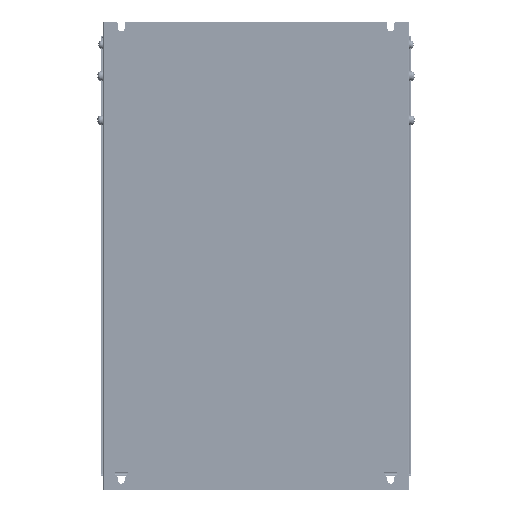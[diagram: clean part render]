
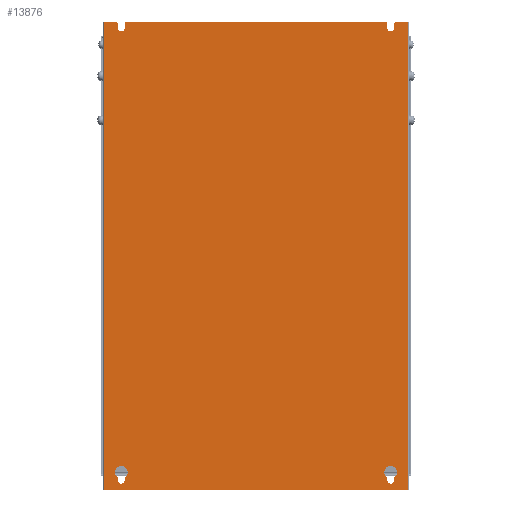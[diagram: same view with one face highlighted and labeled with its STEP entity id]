
A CAD part, front view. The second image highlights one B-rep face of the part: STEP entity #13876.
In plain terms, the highlighted planar face has unit normal (0, -1, 0) as drawn and (0, 0, 1) by its records, which use the part's own axes.
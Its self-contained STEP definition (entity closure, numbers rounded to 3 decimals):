
#1620=DIRECTION('',(0.,-1.,0.));
#1621=VECTOR('',#1620,476.);
#1622=CARTESIAN_POINT('',(-154.1,476.,0.));
#1623=LINE('',#1622,#1621);
#1628=DIRECTION('',(0.707,-0.707,0.));
#1629=VECTOR('',#1628,1.414);
#1630=CARTESIAN_POINT('',(-141.5,476.,0.));
#1631=LINE('',#1630,#1629);
#1632=CARTESIAN_POINT('',(-137.,470.,0.));
#1633=DIRECTION('',(0.,0.,1.));
#1634=DIRECTION('',(-1.,0.,0.));
#1635=AXIS2_PLACEMENT_3D('',#1632,#1633,#1634);
#1637=DIRECTION('',(0.,1.,0.));
#1638=VECTOR('',#1637,5.);
#1639=CARTESIAN_POINT('',(-133.5,470.,0.));
#1640=LINE('',#1639,#1638);
#1641=DIRECTION('',(0.707,0.707,0.));
#1642=VECTOR('',#1641,1.414);
#1643=CARTESIAN_POINT('',(-133.5,475.,0.));
#1644=LINE('',#1643,#1642);
#1645=DIRECTION('',(0.707,-0.707,0.));
#1646=VECTOR('',#1645,1.414);
#1647=CARTESIAN_POINT('',(132.5,476.,0.));
#1648=LINE('',#1647,#1646);
#1649=CARTESIAN_POINT('',(137.,470.,0.));
#1650=DIRECTION('',(0.,0.,1.));
#1651=DIRECTION('',(-1.,0.,0.));
#1652=AXIS2_PLACEMENT_3D('',#1649,#1650,#1651);
#1654=DIRECTION('',(0.,1.,0.));
#1655=VECTOR('',#1654,5.);
#1656=CARTESIAN_POINT('',(140.5,470.,0.));
#1657=LINE('',#1656,#1655);
#1658=DIRECTION('',(0.707,0.707,0.));
#1659=VECTOR('',#1658,1.414);
#1660=CARTESIAN_POINT('',(140.5,475.,0.));
#1661=LINE('',#1660,#1659);
#1662=DIRECTION('',(-1.,0.,0.));
#1663=VECTOR('',#1662,308.2);
#1664=CARTESIAN_POINT('',(154.1,0.,0.));
#1665=LINE('',#1664,#1663);
#1666=DIRECTION('',(0.,1.,0.));
#1667=VECTOR('',#1666,2.523);
#1668=CARTESIAN_POINT('',(140.5,10.,0.));
#1669=LINE('',#1668,#1667);
#1670=CARTESIAN_POINT('',(137.,18.,0.));
#1671=DIRECTION('',(0.,0.,1.));
#1672=DIRECTION('',(0.538,-0.843,0.));
#1673=AXIS2_PLACEMENT_3D('',#1670,#1671,#1672);
#1675=CARTESIAN_POINT('',(137.,18.,0.));
#1676=DIRECTION('',(0.,0.,1.));
#1677=DIRECTION('',(-0.538,0.843,0.));
#1678=AXIS2_PLACEMENT_3D('',#1675,#1676,#1677);
#1680=DIRECTION('',(0.,-1.,0.));
#1681=VECTOR('',#1680,2.523);
#1682=CARTESIAN_POINT('',(133.5,12.523,0.));
#1683=LINE('',#1682,#1681);
#1684=CARTESIAN_POINT('',(137.,10.,0.));
#1685=DIRECTION('',(0.,0.,1.));
#1686=DIRECTION('',(-1.,0.,0.));
#1687=AXIS2_PLACEMENT_3D('',#1684,#1685,#1686);
#1689=DIRECTION('',(0.,1.,0.));
#1690=VECTOR('',#1689,2.523);
#1691=CARTESIAN_POINT('',(-133.5,10.,0.));
#1692=LINE('',#1691,#1690);
#1693=CARTESIAN_POINT('',(-137.,18.,0.));
#1694=DIRECTION('',(0.,0.,1.));
#1695=DIRECTION('',(0.538,-0.843,0.));
#1696=AXIS2_PLACEMENT_3D('',#1693,#1694,#1695);
#1698=CARTESIAN_POINT('',(-137.,18.,0.));
#1699=DIRECTION('',(0.,0.,1.));
#1700=DIRECTION('',(-0.538,0.843,0.));
#1701=AXIS2_PLACEMENT_3D('',#1698,#1699,#1700);
#1703=DIRECTION('',(0.,-1.,0.));
#1704=VECTOR('',#1703,2.523);
#1705=CARTESIAN_POINT('',(-140.5,12.523,0.));
#1706=LINE('',#1705,#1704);
#1707=CARTESIAN_POINT('',(-137.,10.,0.));
#1708=DIRECTION('',(0.,0.,1.));
#1709=DIRECTION('',(-1.,0.,0.));
#1710=AXIS2_PLACEMENT_3D('',#1707,#1708,#1709);
#1716=DIRECTION('',(-1.,0.,0.));
#1717=VECTOR('',#1716,12.6);
#1718=CARTESIAN_POINT('',(-141.5,476.,0.));
#1719=LINE('',#1718,#1717);
#2073=DIRECTION('',(0.,1.,0.));
#2074=VECTOR('',#2073,476.);
#2075=CARTESIAN_POINT('',(154.1,0.,0.));
#2076=LINE('',#2075,#2074);
#2211=DIRECTION('',(-1.,0.,0.));
#2212=VECTOR('',#2211,12.6);
#2213=CARTESIAN_POINT('',(154.1,476.,0.));
#2214=LINE('',#2213,#2212);
#2235=DIRECTION('',(0.,1.,0.));
#2236=VECTOR('',#2235,5.);
#2237=CARTESIAN_POINT('',(133.5,470.,0.));
#2238=LINE('',#2237,#2236);
#2247=DIRECTION('',(-1.,0.,0.));
#2248=VECTOR('',#2247,265.);
#2249=CARTESIAN_POINT('',(132.5,476.,0.));
#2250=LINE('',#2249,#2248);
#2271=DIRECTION('',(0.,1.,0.));
#2272=VECTOR('',#2271,5.);
#2273=CARTESIAN_POINT('',(-140.5,470.,0.));
#2274=LINE('',#2273,#2272);
#11013=CARTESIAN_POINT('',(-154.1,0.,0.));
#11014=VERTEX_POINT('',#11013);
#11017=CARTESIAN_POINT('',(-154.1,476.,0.));
#11018=VERTEX_POINT('',#11017);
#11019=CARTESIAN_POINT('',(-141.5,476.,0.));
#11020=CARTESIAN_POINT('',(-140.5,475.,0.));
#11021=VERTEX_POINT('',#11019);
#11022=VERTEX_POINT('',#11020);
#11023=CARTESIAN_POINT('',(-140.5,470.,0.));
#11024=VERTEX_POINT('',#11023);
#11025=CARTESIAN_POINT('',(-133.5,470.,0.));
#11026=VERTEX_POINT('',#11025);
#11027=CARTESIAN_POINT('',(-133.5,475.,0.));
#11028=VERTEX_POINT('',#11027);
#11029=CARTESIAN_POINT('',(-132.5,476.,0.));
#11030=VERTEX_POINT('',#11029);
#11031=CARTESIAN_POINT('',(132.5,476.,0.));
#11032=VERTEX_POINT('',#11031);
#11033=CARTESIAN_POINT('',(133.5,475.,0.));
#11034=VERTEX_POINT('',#11033);
#11035=CARTESIAN_POINT('',(133.5,470.,0.));
#11036=VERTEX_POINT('',#11035);
#11037=CARTESIAN_POINT('',(140.5,470.,0.));
#11038=VERTEX_POINT('',#11037);
#11039=CARTESIAN_POINT('',(140.5,475.,0.));
#11040=VERTEX_POINT('',#11039);
#11041=CARTESIAN_POINT('',(141.5,476.,0.));
#11042=VERTEX_POINT('',#11041);
#11043=CARTESIAN_POINT('',(154.1,476.,0.));
#11044=VERTEX_POINT('',#11043);
#11045=CARTESIAN_POINT('',(154.1,0.,0.));
#11046=VERTEX_POINT('',#11045);
#11047=CARTESIAN_POINT('',(140.5,10.,0.));
#11048=CARTESIAN_POINT('',(140.5,12.523,0.));
#11049=VERTEX_POINT('',#11047);
#11050=VERTEX_POINT('',#11048);
#11051=CARTESIAN_POINT('',(133.5,23.477,0.));
#11052=VERTEX_POINT('',#11051);
#11053=CARTESIAN_POINT('',(133.5,12.523,0.));
#11054=VERTEX_POINT('',#11053);
#11055=CARTESIAN_POINT('',(133.5,10.,0.));
#11056=VERTEX_POINT('',#11055);
#11057=CARTESIAN_POINT('',(-133.5,10.,0.));
#11058=CARTESIAN_POINT('',(-133.5,12.523,0.));
#11059=VERTEX_POINT('',#11057);
#11060=VERTEX_POINT('',#11058);
#11061=CARTESIAN_POINT('',(-140.5,23.477,0.));
#11062=VERTEX_POINT('',#11061);
#11063=CARTESIAN_POINT('',(-140.5,12.523,0.));
#11064=VERTEX_POINT('',#11063);
#11065=CARTESIAN_POINT('',(-140.5,10.,0.));
#11066=VERTEX_POINT('',#11065);
#13814=CARTESIAN_POINT('',(-155.5,0.,0.));
#13815=DIRECTION('',(0.,0.,1.));
#13816=DIRECTION('',(1.,0.,0.));
#13817=AXIS2_PLACEMENT_3D('',#13814,#13815,#13816);
#13818=PLANE('',#13817);
#13820=ORIENTED_EDGE('',*,*,#13819,.T.);
#13822=ORIENTED_EDGE('',*,*,#13821,.F.);
#13824=ORIENTED_EDGE('',*,*,#13823,.T.);
#13826=ORIENTED_EDGE('',*,*,#13825,.T.);
#13828=ORIENTED_EDGE('',*,*,#13827,.T.);
#13830=ORIENTED_EDGE('',*,*,#13829,.F.);
#13832=ORIENTED_EDGE('',*,*,#13831,.T.);
#13834=ORIENTED_EDGE('',*,*,#13833,.F.);
#13836=ORIENTED_EDGE('',*,*,#13835,.T.);
#13838=ORIENTED_EDGE('',*,*,#13837,.T.);
#13840=ORIENTED_EDGE('',*,*,#13839,.T.);
#13842=ORIENTED_EDGE('',*,*,#13841,.F.);
#13844=ORIENTED_EDGE('',*,*,#13843,.F.);
#13846=ORIENTED_EDGE('',*,*,#13845,.T.);
#13847=ORIENTED_EDGE('',*,*,#13805,.F.);
#13849=ORIENTED_EDGE('',*,*,#13848,.F.);
#13850=EDGE_LOOP('',(#13820,#13822,#13824,#13826,#13828,#13830,#13832,#13834,
#13836,#13838,#13840,#13842,#13844,#13846,#13847,#13849));
#13851=FACE_OUTER_BOUND('',#13850,.F.);
#13853=ORIENTED_EDGE('',*,*,#13852,.T.);
#13855=ORIENTED_EDGE('',*,*,#13854,.T.);
#13857=ORIENTED_EDGE('',*,*,#13856,.T.);
#13859=ORIENTED_EDGE('',*,*,#13858,.T.);
#13861=ORIENTED_EDGE('',*,*,#13860,.T.);
#13862=EDGE_LOOP('',(#13853,#13855,#13857,#13859,#13861));
#13863=FACE_BOUND('',#13862,.F.);
#13865=ORIENTED_EDGE('',*,*,#13864,.T.);
#13867=ORIENTED_EDGE('',*,*,#13866,.T.);
#13869=ORIENTED_EDGE('',*,*,#13868,.T.);
#13871=ORIENTED_EDGE('',*,*,#13870,.T.);
#13873=ORIENTED_EDGE('',*,*,#13872,.T.);
#13874=EDGE_LOOP('',(#13865,#13867,#13869,#13871,#13873));
#13875=FACE_BOUND('',#13874,.F.);
#13876=ADVANCED_FACE('',(#13851,#13863,#13875),#13818,.T.);
#1636=CIRCLE('',#1635,3.5);
#1653=CIRCLE('',#1652,3.5);
#1674=CIRCLE('',#1673,6.5);
#1679=CIRCLE('',#1678,6.5);
#1688=CIRCLE('',#1687,3.5);
#1697=CIRCLE('',#1696,6.5);
#1702=CIRCLE('',#1701,6.5);
#1711=CIRCLE('',#1710,3.5);
#13805=EDGE_CURVE('',#11018,#11014,#1623,.T.);
#13819=EDGE_CURVE('',#11021,#11022,#1631,.T.);
#13821=EDGE_CURVE('',#11024,#11022,#2274,.T.);
#13823=EDGE_CURVE('',#11024,#11026,#1636,.T.);
#13825=EDGE_CURVE('',#11026,#11028,#1640,.T.);
#13827=EDGE_CURVE('',#11028,#11030,#1644,.T.);
#13829=EDGE_CURVE('',#11032,#11030,#2250,.T.);
#13831=EDGE_CURVE('',#11032,#11034,#1648,.T.);
#13833=EDGE_CURVE('',#11036,#11034,#2238,.T.);
#13835=EDGE_CURVE('',#11036,#11038,#1653,.T.);
#13837=EDGE_CURVE('',#11038,#11040,#1657,.T.);
#13839=EDGE_CURVE('',#11040,#11042,#1661,.T.);
#13841=EDGE_CURVE('',#11044,#11042,#2214,.T.);
#13843=EDGE_CURVE('',#11046,#11044,#2076,.T.);
#13845=EDGE_CURVE('',#11046,#11014,#1665,.T.);
#13848=EDGE_CURVE('',#11021,#11018,#1719,.T.);
#13852=EDGE_CURVE('',#11049,#11050,#1669,.T.);
#13854=EDGE_CURVE('',#11050,#11052,#1674,.T.);
#13856=EDGE_CURVE('',#11052,#11054,#1679,.T.);
#13858=EDGE_CURVE('',#11054,#11056,#1683,.T.);
#13860=EDGE_CURVE('',#11056,#11049,#1688,.T.);
#13864=EDGE_CURVE('',#11059,#11060,#1692,.T.);
#13866=EDGE_CURVE('',#11060,#11062,#1697,.T.);
#13868=EDGE_CURVE('',#11062,#11064,#1702,.T.);
#13870=EDGE_CURVE('',#11064,#11066,#1706,.T.);
#13872=EDGE_CURVE('',#11066,#11059,#1711,.T.);
